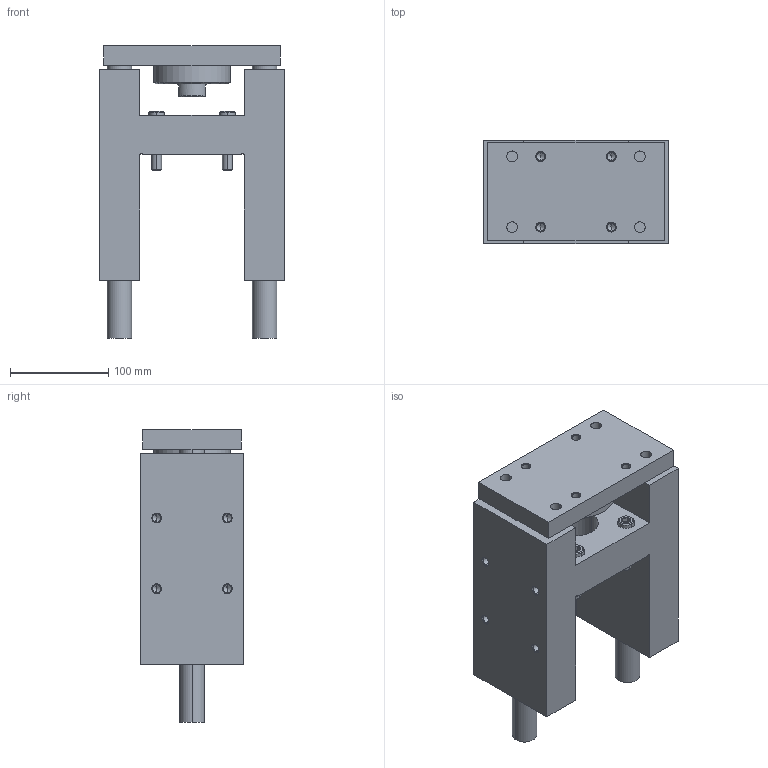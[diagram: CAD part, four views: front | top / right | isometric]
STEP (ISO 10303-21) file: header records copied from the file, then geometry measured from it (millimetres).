
FILE_DESCRIPTION (( 'STEP AP203' ), '1' );
FILE_NAME ('GB80-40.STEP', '2020-04-24T13:26:17', ( '' ), ( '' ), 'SwSTEP 2.0', 'SolidWorks 2019', '' );
FILE_SCHEMA (( 'CONFIG_CONTROL_DESIGN' ));
Length unit declared in the file: millimetre
Products named in the file (1): GB80-40
Bounding box: 189 x 105 x 298 mm (x, y, z)
Volume: 2735705.4 mm3; surface area: 325954.8 mm2
Topology: 6 solids, 6 shells, 329 faces, 728 edges, 412 vertices
Faces by surface type: cone 134, cylinder 98, plane 97
Entity records: 9631 total; most frequent: CARTESIAN_POINT 2242, DIRECTION 1662, ORIENTED_EDGE 1392, EDGE_CURVE 696, AXIS2_PLACEMENT_3D 664, VERTEX_POINT 412, EDGE_LOOP 392, CIRCLE 334
